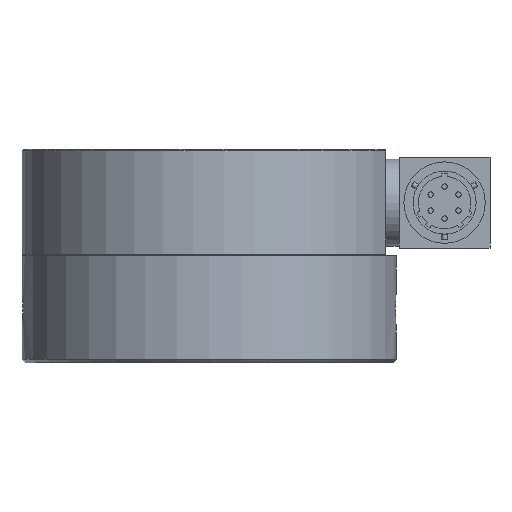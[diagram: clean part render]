
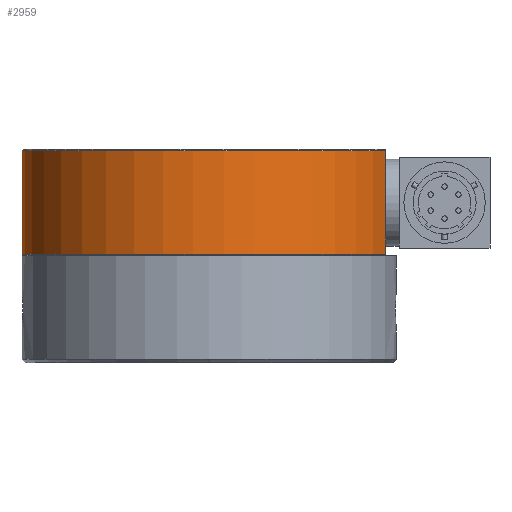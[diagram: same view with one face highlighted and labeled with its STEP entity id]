
A CAD part, front view. The second image highlights one B-rep face of the part: STEP entity #2959.
In plain terms, the highlighted cylindrical face has radius 44.45 mm (diameter 88.9 mm), a partial arc.
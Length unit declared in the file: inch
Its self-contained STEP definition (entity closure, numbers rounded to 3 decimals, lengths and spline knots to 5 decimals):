
#1873 = EDGE_CURVE ( 'NONE', #1969, #2792, #4923, .T. ) ;
#1911 = ORIENTED_EDGE ( 'NONE', *, *, #1873, .T. ) ;
#1969 = VERTEX_POINT ( 'NONE', #5684 ) ;
#2576 = EDGE_CURVE ( 'NONE', #2677, #1969, #3409, .T. ) ;
#2622 = ORIENTED_EDGE ( 'NONE', *, *, #2576, .T. ) ;
#2677 = VERTEX_POINT ( 'NONE', #3798 ) ;
#2695 = EDGE_CURVE ( 'NONE', #2815, #2677, #3885, .T. ) ;
#2733 = ORIENTED_EDGE ( 'NONE', *, *, #2695, .T. ) ;
#2792 = VERTEX_POINT ( 'NONE', #4298 ) ;
#2815 = VERTEX_POINT ( 'NONE', #4384 ) ;
#2847 = EDGE_CURVE ( 'NONE', #2815, #2792, #4504, .T. ) ;
#2884 = ORIENTED_EDGE ( 'NONE', *, *, #2847, .F. ) ;
#2938 = EDGE_LOOP ( 'NONE', ( #2884, #2733, #2622, #1911 ) ) ;
#2959 = ADVANCED_FACE ( 'NONE', ( #5416 ), #5417, .T. ) ;
#3409 = CIRCLE ( 'NONE', #3410, 1.75 ) ;
#3410 = AXIS2_PLACEMENT_3D ( 'NONE', #3411, #3412, #3413 ) ;
#3411 = CARTESIAN_POINT ( 'NONE',  ( 0., 0., -0.97938 ) ) ;
#3412 = DIRECTION ( 'NONE',  ( 0., 0., 1. ) ) ;
#3413 = DIRECTION ( 'NONE',  ( 0., -1., 0. ) ) ;
#3798 = CARTESIAN_POINT ( 'NONE',  ( -1.75, 0., -0.97938 ) ) ;
#3885 = LINE ( 'NONE', #3886, #3887 ) ;
#3886 = CARTESIAN_POINT ( 'NONE',  ( -1.75, 0., -0.012 ) ) ;
#3887 = VECTOR ( 'NONE', #3888, 39.37008 ) ;
#3888 = DIRECTION ( 'NONE',  ( 0., 0., -1. ) ) ;
#4298 = CARTESIAN_POINT ( 'NONE',  ( 1.652, -0.5774, -0.012 ) ) ;
#4384 = CARTESIAN_POINT ( 'NONE',  ( -1.75, 0., -0.012 ) ) ;
#4504 = CIRCLE ( 'NONE', #4505, 1.75 ) ;
#4505 = AXIS2_PLACEMENT_3D ( 'NONE', #4506, #4507, #4508 ) ;
#4506 = CARTESIAN_POINT ( 'NONE',  ( 0., 0., -0.012 ) ) ;
#4507 = DIRECTION ( 'NONE',  ( 0., 0., 1. ) ) ;
#4508 = DIRECTION ( 'NONE',  ( -1., 0., 0. ) ) ;
#4923 = LINE ( 'NONE', #4924, #4925 ) ;
#4924 = CARTESIAN_POINT ( 'NONE',  ( 1.652, -0.5774, -0.48969 ) ) ;
#4925 = VECTOR ( 'NONE', #4926, 39.37008 ) ;
#4926 = DIRECTION ( 'NONE',  ( 0., 0., 1. ) ) ;
#5416 = FACE_OUTER_BOUND ( 'NONE', #2938, .T. ) ;
#5417 = CYLINDRICAL_SURFACE ( 'NONE', #5418, 1.75 ) ;
#5418 = AXIS2_PLACEMENT_3D ( 'NONE', #5419, #5420, #5421 ) ;
#5419 = CARTESIAN_POINT ( 'NONE',  ( 0., 0., -0.012 ) ) ;
#5420 = DIRECTION ( 'NONE',  ( 0., 0., -1. ) ) ;
#5421 = DIRECTION ( 'NONE',  ( -1., 0., 0. ) ) ;
#5684 = CARTESIAN_POINT ( 'NONE',  ( 1.652, -0.5774, -0.97938 ) ) ;
